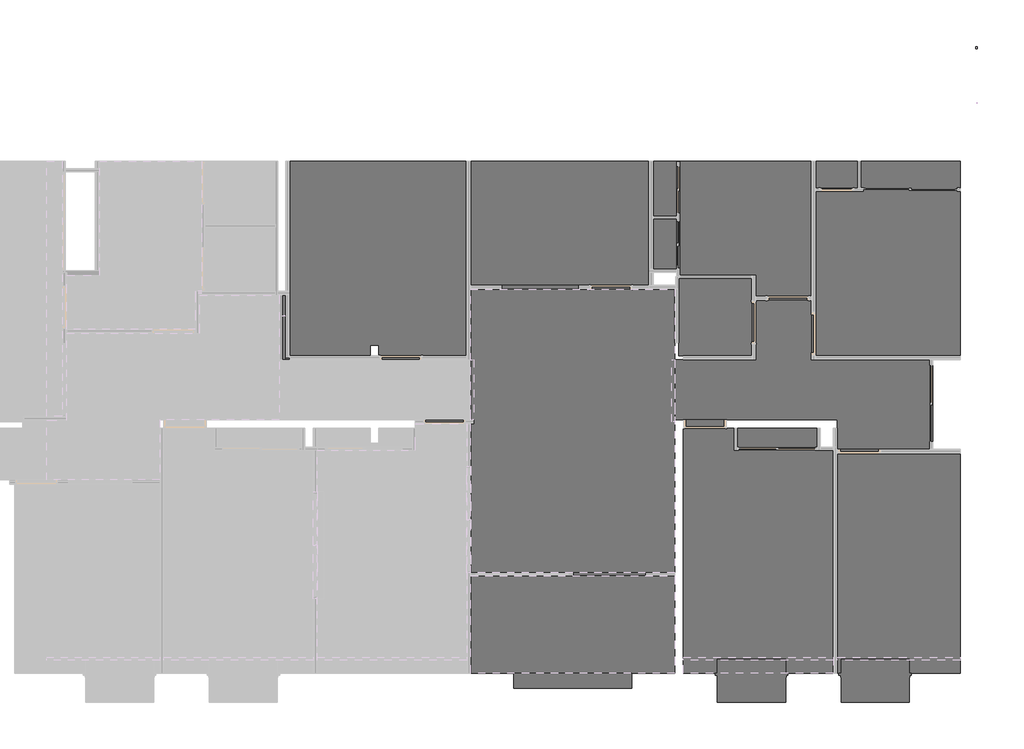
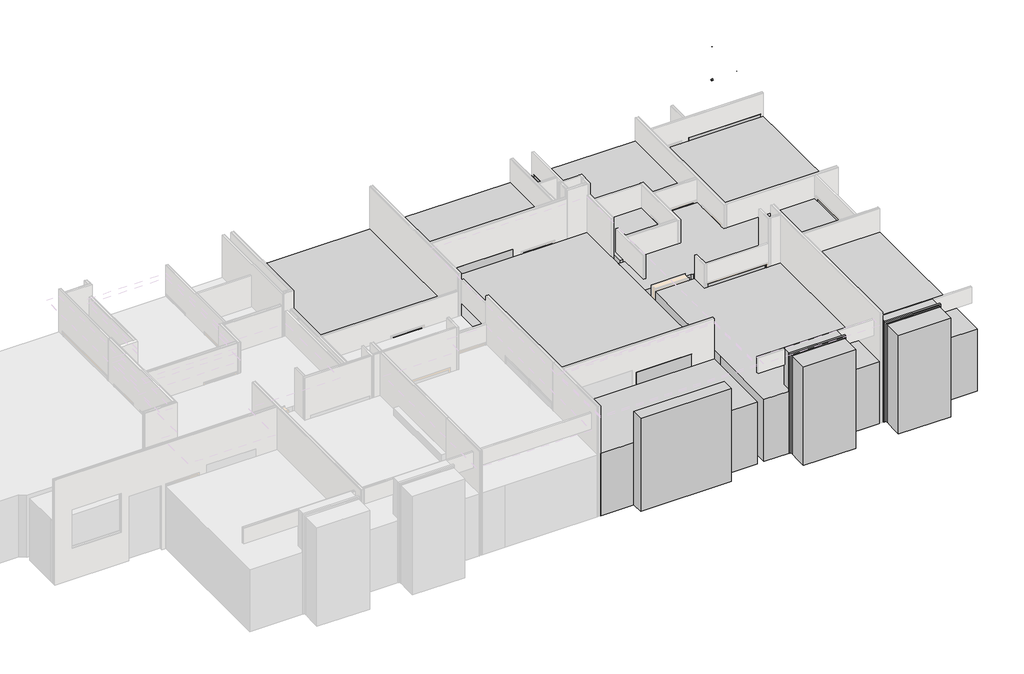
# One storey, part 6 of 6: 45 proxies.
"""IFC4 building model written with IfcOpenShell, lengths in millimetres."""

from ifc_helpers import new_model, si_unit, point, frame, frame_2d, origin, origin_with_axes, place, context, project, spatial, polyline, circle_curve, trimmed, segment, composite_curve, outline, extrude, faceted_brep, transform, mapped, element, save
from ifc_brep_helpers import plane_surface, revolved_surface, advanced_brep
from components import generic_models_f095d0f3

model = new_model("IFC4")

# Units and contexts
model_context = context("Model", 3, world=origin())
ifc_project = project(units=[si_unit("LENGTHUNIT", "METRE", prefix="MILLI")], contexts=[model_context])

# Site, building, storey
site = spatial("IfcSite", under=ifc_project)
building = spatial("IfcBuilding", under=site)
storey = spatial("IfcBuildingStorey", under=building, Name="0 Mairie RDC 0.00", Elevation=0.0)

# Proxies
placement = place(None, origin())
element("IfcBuildingElementProxy", 1, Name="Pièces - BUREAU 4", ObjectType="Pièces - BUREAU 4", at=placement, inside=storey, context=model_context, shape_type="SweptSolid", body=[
    extrude(outline(polyline([(1777.6156007, -8831.1038426), (1777.6156007, -13978.5662223), (-1106.3922233, -13978.5662223), (-1106.3922233, -8831.1038426), (1777.6156007, -8831.1038426)])), origin_with_axes(), (0.0, 0.0, 1.0), 2000.0),
])
element("IfcBuildingElementProxy", 2, Name="Pièces - WC PERSONNEL 5", ObjectType="Pièces - WC PERSONNEL 5", at=placement, inside=storey, context=model_context, shape_type="SweptSolid", body=[
    extrude(outline(polyline([(-4827.496702, -4722.7868397), (-3118.9176162, -4722.7868397), (-3118.9176162, -6533.7824715), (-4827.496702, -6533.7824715), (-4827.496702, -4722.7868397)])), origin_with_axes(), (0.0, 0.0, 1.0), 2000.0),
])
element("IfcBuildingElementProxy", 3, Name="Pièces - TECHNIQUE URBANISME 6", ObjectType="Pièces - TECHNIQUE URBANISME 6", at=placement, inside=storey, context=model_context, shape_type="SweptSolid", body=[
    extrude(outline(polyline([(-1206.3922233, -13978.5662223), (-3920.1625689, -13978.5662223), (-4727.496702, -13978.5662223), (-4727.496702, -11663.5833837), (-4727.496702, -8238.2685444), (-3526.0406291, -8238.2685444), (-3526.0406291, -8751.7570094), (-1541.0769125, -8751.7570094), (-1206.3922233, -8751.7570094), (-1206.3922233, -8781.1038426), (-1206.3922233, -13978.5662223)])), origin_with_axes(), (0.0, 0.0, 1.0), 2000.0),
])
element("IfcBuildingElementProxy", 4, Name="Pièces - Rgt TU 7", ObjectType="Pièces - Rgt TU 7", at=placement, inside=storey, context=model_context, shape_type="SweptSolid", body=[
    extrude(outline(polyline([(-3456.0406291, -8238.2685444), (-1576.0769125, -8238.2685444), (-1576.0769125, -8681.7570094), (-3456.0406291, -8681.7570094), (-3456.0406291, -8238.2685444)])), origin_with_axes(), (0.0, 0.0, 1.0), 2000.0),
])
element("IfcBuildingElementProxy", 5, Name="Generic Models", at=placement, inside=storey, context=model_context, shape_type="SweptSolid", body=[
    extrude(outline(polyline([(-1617.7552543, -5187.6533676), (-1617.7552543, -1972.7637486), (-634.0175894, -1972.7637486), (-634.0175894, -2637.7637486), (-564.0175894, -2637.7637486), (-564.0175894, -1972.7637486), (1777.6156007, -1972.7637486), (1777.6156007, -6533.7824715), (1092.9012584, -6533.7824715), (-1617.7552543, -6533.7824715), (-1617.7552543, -5187.6533676)])), origin_with_axes(), (0.0, 0.0, 1.0), 2000.0),
])
element("IfcBuildingElementProxy", 6, Name="Generic Models", at=placement, inside=storey, context=model_context, shape_type="AdvancedBrep", body=[
    advanced_brep(
    [(1169.4151282, -2359.887582, 62.1509425), (1144.0151282, -2359.887582, 62.1509425), (1156.7151282, -2359.887582, 62.1509425), (1156.7151282, -2359.887582, 24.0509425)],
    [
        (0, 1, circle_curve(frame((1156.7151282, -2359.887582, 62.1509425), z_axis=(0.0, 0.0, 1.0), x_axis=(-1.0, 0.0, 0.0)), 12.7)),
        (1, 2),
        (2, 0),
        (1, 0, circle_curve(frame((1156.7151282, -2359.887582, 62.1509425), z_axis=(0.0, 0.0, 1.0), x_axis=(-1.0, 0.0, 0.0)), 12.7)),
        (3, 1),
        (0, 3),
    ],
    [
        plane_surface(frame((1156.7151282, -2359.887582, 62.1509425), z_axis=(0.0, 0.0, 1.0), x_axis=(-1.0, 0.0, 0.0))),
        revolved_surface(polyline([(1144.0151282, -2359.887582, 62.1509425), (1156.7151282, -2359.887582, 24.0509425)]), (1156.7151282, -2359.887582, 62.1509425), (0.0, 0.0, -1.0)),
    ],
    [
        (0, [[1, 2, 3]]),
        (0, [[4, -3, -2]]),
        (1, [[5, -1, 6]]),
        (1, [[-6, -4, -5]]),
    ],
),
    advanced_brep(
    [(1144.0151282, -2359.887582, 62.1509425), (1169.4151282, -2359.887582, 62.1509425), (1156.7151282, -2359.887582, 62.1509425), (1156.7151282, -2359.887582, 100.2509425)],
    [
        (0, 1, circle_curve(frame((1156.7151282, -2359.887582, 62.1509425), z_axis=(0.0, 0.0, -1.0), x_axis=(1.0, 0.0, 0.0)), 12.7)),
        (1, 2),
        (2, 0),
        (1, 0, circle_curve(frame((1156.7151282, -2359.887582, 62.1509425), z_axis=(0.0, 0.0, -1.0), x_axis=(1.0, 0.0, 0.0)), 12.7)),
        (3, 1),
        (0, 3),
    ],
    [
        plane_surface(frame((1156.7151282, -2359.887582, 62.1509425), z_axis=(0.0, 0.0, -1.0), x_axis=(1.0, 0.0, 0.0))),
        revolved_surface(polyline([(1169.4151282, -2359.887582, 62.1509425), (1156.7151282, -2359.887582, 100.2509425)]), (1156.7151282, -2359.887582, 62.1509425), (0.0, 0.0, 1.0)),
    ],
    [
        (0, [[1, 2, 3]]),
        (0, [[4, -3, -2]]),
        (1, [[5, -1, 6]]),
        (1, [[-6, -4, -5]]),
    ],
),
])
element("IfcBuildingElementProxy", 7, Name="Generic Models", at=placement, inside=storey, context=model_context, shape_type="SweptSolid", body=[
    extrude(outline(polyline([(-1617.7552543, -5187.6533676), (-1617.7552543, -1972.7637486), (-634.0175894, -1972.7637486), (-634.0175894, -2637.7637486), (-564.0175894, -2637.7637486), (-564.0175894, -1972.7637486), (1777.6156007, -1972.7637486), (1777.6156007, -6533.7824715), (1092.9012584, -6533.7824715), (-1617.7552543, -6533.7824715), (-1617.7552543, -5187.6533676)])), origin_with_axes(), (0.0, 0.0, 1.0), 2000.0),
])
element("IfcBuildingElementProxy", 8, Name="Generic Models", at=placement, inside=storey, context=model_context, shape_type="SweptSolid", body=[
    extrude(outline(polyline([(-1617.7552543, -5187.6533676), (-1617.7552543, -1972.7637486), (-634.0175894, -1972.7637486), (-634.0175894, -2637.7637486), (-564.0175894, -2637.7637486), (-564.0175894, -1972.7637486), (1777.6156007, -1972.7637486), (1777.6156007, -6533.7824715), (1092.9012584, -6533.7824715), (-1617.7552543, -6533.7824715), (-1617.7552543, -5187.6533676)])), origin_with_axes(), (0.0, 0.0, 1.0), 2000.0),
])
element("IfcBuildingElementProxy", 9, Name="Pièces - HALL D'ACCUEIL 16", ObjectType="Pièces - HALL D'ACCUEIL 16", at=placement, inside=storey, context=model_context, shape_type="SweptSolid", body=[
    extrude(outline(polyline([(-9708.4471465, -4978.2154166), (-5529.0919733, -4978.2154166), (-5527.496701, -4978.2154166), (-5477.496701, -4978.2154166), (-4927.496702, -4978.2154166), (-4927.496702, -6233.7824715), (-4927.496702, -6633.7824715), (-4927.496702, -7985.2589444), (-4927.496702, -8138.2685444), (-4927.496702, -11628.5833837), (-9754.6455383, -11628.5833837), (-9754.6455383, -9128.5833837), (-9704.6455383, -9128.5833837), (-9704.6455383, -8082.7867091), (-9708.4471465, -8082.7867091), (-9708.4471465, -6735.5436392), (-9708.4471465, -6532.5340392), (-9708.4471465, -4978.2154166)])), origin_with_axes(), (0.0, 0.0, 1.0), 2000.0),
])
element("IfcBuildingElementProxy", 10, Name="Pièces - ENTRETIEN 17", ObjectType="Pièces - ENTRETIEN 17", at=placement, inside=storey, context=model_context, shape_type="SweptSolid", body=[
    extrude(outline(polyline([(-5427.496701, -3327.7490792), (-4842.4967035, -3327.7490792), (-4842.4967035, -3257.7490792), (-5427.496701, -3257.7490792), (-5427.496701, -1972.7637486), (-1717.7552543, -1972.7637486), (-1717.7552543, -5137.6533676), (-3018.9176162, -5137.6533676), (-3018.9176162, -4652.7868397), (-4842.4967035, -4652.7868397), (-4842.4967035, -4510.805772), (-5015.506302, -4510.805772), (-5427.496701, -4510.805772), (-5427.496701, -3327.7490792)])), origin_with_axes(), (0.0, 0.0, 1.0), 2000.0),
])
element("IfcBuildingElementProxy", 11, Name="Pièces - SAS 18", ObjectType="Pièces - SAS 18", at=placement, inside=storey, context=model_context, shape_type="SweptSolid", body=[
    extrude(outline(polyline([(-9704.6455383, -11698.5833837), (-4927.496702, -11698.5833837), (-4927.496702, -13978.5662223), (-9704.6455383, -13978.5662223), (-9704.6455383, -11698.5833837)])), origin_with_axes(), (0.0, 0.0, 1.0), 2000.0),
])
element("IfcBuildingElementProxy", 12, Name="Pièces - REPROGRAPHIE 25", ObjectType="Pièces - REPROGRAPHIE 25", at=placement, inside=storey, context=model_context, shape_type="SweptSolid", body=[
    extrude(outline(polyline([(-9708.4471465, -1972.7637486), (-5527.496701, -1972.7637486), (-5527.496701, -4878.2154166), (-9708.4471465, -4878.2154166), (-9708.4471465, -1972.7637486)])), origin_with_axes(), (0.0, 0.0, 1.0), 2000.0),
])
element("IfcBuildingElementProxy", 13, Name="Pièces - DEGAGEMENT 2 27", ObjectType="Pièces - DEGAGEMENT 2 27", at=placement, inside=storey, context=model_context, shape_type="SweptSolid", body=[
    extrude(outline(polyline([(-1717.7552543, -6633.7824715), (1057.9012584, -6633.7824715), (1057.9012584, -8731.1038426), (-1106.3922233, -8731.1038426), (-1106.3922233, -8239.8638166), (-1106.3922233, -8038.2685444), (-1207.9874955, -8038.2685444), (-1504.4816403, -8038.2685444), (-1577.6721848, -8038.2685444), (-3454.4453569, -8038.2685444), (-3527.6359014, -8038.2685444), (-4927.496702, -8038.2685444), (-4927.496702, -6633.7824715), (-4727.496702, -6633.7824715), (-3018.9176162, -6633.7824715), (-3018.9176162, -5237.6533676), (-1717.7552543, -5237.6533676), (-1717.7552543, -6633.7824715)])), origin_with_axes(), (0.0, 0.0, 1.0), 2000.0),
])
element("IfcBuildingElementProxy", 14, Name="Pièces - ARCHIVES 29", ObjectType="Pièces - ARCHIVES 29", at=placement, inside=storey, context=model_context, shape_type="SweptSolid", body=[
    extrude(outline(polyline([(-11858.5461708, -6292.5340392), (-12058.5461708, -6292.5340392), (-12058.5461708, -6532.5340392), (-13946.7760862, -6532.5340392), (-13946.7760862, -1972.7637486), (-9808.4471465, -1972.7637486), (-9808.4471465, -6532.5340392), (-11858.5461708, -6532.5340392), (-11858.5461708, -6292.5340392)])), origin_with_axes(), (0.0, 0.0, 1.0), 2000.0),
])
element("IfcBuildingElementProxy", 15, Name="Generic Models", at=placement, inside=storey, context=model_context, shape_type="SweptSolid", body=[
    extrude(outline(polyline([(-4877.4967035, -4477.5549021), (-4877.4967035, -3377.5549021), (-4807.4967035, -3377.5549021), (-4807.4967035, -4477.5549021), (-4877.4967035, -4477.5549021)])), origin_with_axes(), (0.0, 0.0, 1.0), 2100.0),
])
element("IfcBuildingElementProxy", 16, Name="Generic Models", at=placement, inside=storey, context=model_context, shape_type="SweptSolid", body=[
    extrude(outline(polyline([(-4807.4967035, -2089.805772), (-4807.4967035, -3189.805772), (-4877.4967035, -3189.805772), (-4877.4967035, -2089.805772), (-4807.4967035, -2089.805772)])), origin_with_axes(), (0.0, 0.0, 1.0), 2100.0),
])
element("IfcBuildingElementProxy", 17, Name="Generic Models", at=placement, inside=storey, context=model_context, shape_type="SweptSolid", body=[
    extrude(outline(polyline([(-1617.7552543, -5518.7824715), (-1617.7552543, -6518.7824715), (-1717.7552543, -6518.7824715), (-1717.7552543, -5518.7824715), (-1617.7552543, -5518.7824715)])), origin_with_axes(), (0.0, 0.0, 1.0), 2075.0),
])
element("IfcBuildingElementProxy", 18, Name="Generic Models", at=placement, inside=storey, context=model_context, shape_type="SweptSolid", body=[
    extrude(outline(polyline([(-3018.9176162, -5252.6533676), (-3018.9176162, -6252.6533676), (-3118.9176162, -6252.6533676), (-3118.9176162, -5252.6533676), (-3018.9176162, -5252.6533676)])), origin_with_axes(), (0.0, 0.0, 1.0), 2075.0),
])
element("IfcBuildingElementProxy", 19, Name="Generic Models", at=placement, inside=storey, context=model_context, shape_type="SweptSolid", body=[
    extrude(outline(polyline([(-2767.7552543, -5137.6533676), (-1767.7552543, -5137.6533676), (-1767.7552543, -5237.6533676), (-2767.7552543, -5237.6533676), (-2767.7552543, -5137.6533676)])), origin_with_axes(), (0.0, 0.0, 1.0), 2075.0),
])
element("IfcBuildingElementProxy", 20, Name="Generic Models", at=placement, inside=storey, context=model_context, shape_type="SweptSolid", body=[
    extrude(outline(polyline([(-11848.5461708, -6532.5340392), (-10848.5461708, -6532.5340392), (-10848.5461708, -6632.5340392), (-11848.5461708, -6632.5340392), (-11848.5461708, -6532.5340392)])), origin_with_axes(), (0.0, 0.0, 1.0), 2075.0),
])
element("IfcBuildingElementProxy", 21, Name="Generic Models", at=placement, inside=storey, context=model_context, shape_type="SweptSolid", body=[
    extrude(outline(polyline([(-91.3922233, -8831.1038426), (-1091.3922233, -8831.1038426), (-1091.3922233, -8731.1038426), (-91.3922233, -8731.1038426), (-91.3922233, -8831.1038426)])), origin_with_axes(), (0.0, 0.0, 1.0), 2075.0),
])
element("IfcBuildingElementProxy", 22, Name="Generic Models", at=placement, inside=storey, context=model_context, shape_type="SweptSolid", body=[
    extrude(outline(polyline([(-1091.3922233, -8831.1038426), (-1091.3922233, -8731.1038426), (-91.3922233, -8731.1038426), (-91.3922233, -8831.1038426), (-1091.3922233, -8831.1038426)])), origin_with_axes(), (0.0, 0.0, 1.0), 2075.0),
])
element("IfcBuildingElementProxy", 23, Name="Generic Models", at=placement, inside=storey, context=model_context, shape_type="SweptSolid", body=[
    extrude(outline(polyline([(-1621.0406291, -8751.7570094), (-3421.0406291, -8751.7570094), (-3421.0406291, -8681.7570094), (-1621.0406291, -8681.7570094), (-1621.0406291, -8751.7570094)])), origin_with_axes(), (0.0, 0.0, 1.0), 2100.0),
])
element("IfcBuildingElementProxy", 24, Name="Generic Models", at=placement, inside=storey, context=model_context, shape_type="SweptSolid", body=[
    extrude(outline(polyline([(-6917.4166831, -4878.2154166), (-5917.4166831, -4878.2154166), (-5917.4166831, -4978.2154166), (-6917.4166831, -4978.2154166), (-6917.4166831, -4878.2154166)])), origin_with_axes(), (0.0, 0.0, 1.0), 2075.0),
])
element("IfcBuildingElementProxy", 25, Name="Generic Models", at=placement, inside=storey, context=model_context, shape_type="SweptSolid", body=[
    extrude(outline(polyline([(-8974.496701, -4878.2154166), (-7174.496701, -4878.2154166), (-7174.496701, -4978.2154166), (-8974.496701, -4978.2154166), (-8974.496701, -4878.2154166)])), frame((0.0, 0.0, 1000.0), z_axis=(0.0, 0.0, 1.0), x_axis=(1.0, 0.0, 0.0)), (0.0, 0.0, 1.0), 1250.0),
])
element("IfcBuildingElementProxy", 26, Name="Generic Models", at=placement, inside=storey, context=model_context, shape_type="SweptSolid", body=[
    extrude(outline(polyline([(-725.8864219, -2672.7637486), (-1525.8864219, -2672.7637486), (-1525.8864219, -2602.7637486), (-725.8864219, -2602.7637486), (-725.8864219, -2672.7637486)])), origin_with_axes(), (0.0, 0.0, 1.0), 2075.0),
])
element("IfcBuildingElementProxy", 27, Name="Generic Models", at=placement, inside=storey, context=model_context, shape_type="SweptSolid", body=[
    extrude(outline(polyline([(-499.0175894, -2602.7637486), (1700.9824106, -2602.7637486), (1700.9824106, -2672.7637486), (-499.0175894, -2672.7637486), (-499.0175894, -2602.7637486)])), origin_with_axes(), (0.0, 0.0, 1.0), 2100.0),
])
element("IfcBuildingElementProxy", 28, Name="Generic Models", at=placement, inside=storey, context=model_context, shape_type="SweptSolid", body=[
    extrude(outline(polyline([(-5605.3883155, -11698.5833837), (-7305.3883155, -11698.5833837), (-7305.3883155, -11628.5833837), (-5605.3883155, -11628.5833837), (-5605.3883155, -11698.5833837)])), origin_with_axes(), (0.0, 0.0, 1.0), 2400.0),
])
element("IfcBuildingElementProxy", 29, Name="Generic Models", at=placement, inside=storey, context=model_context, shape_type="SweptSolid", body=[
    extrude(outline(polyline([(-9819.6455383, -8132.7867091), (-10819.6455383, -8132.7867091), (-10819.6455383, -8032.7867091), (-9819.6455383, -8032.7867091), (-9819.6455383, -8132.7867091)])), origin_with_axes(), (0.0, 0.0, 1.0), 2075.0),
])
element("IfcBuildingElementProxy", 30, Name="Generic Models", at=placement, inside=storey, context=model_context, shape_type="SweptSolid", body=[
    extrude(outline(polyline([(-3712.496702, -8238.2685444), (-4712.496702, -8238.2685444), (-4712.496702, -8038.2685444), (-3712.496702, -8038.2685444), (-3712.496702, -8238.2685444)])), origin_with_axes(), (0.0, 0.0, 1.0), 2075.0),
])
element("IfcBuildingElementProxy", 31, Name="Generic Models", at=placement, inside=storey, context=model_context, shape_type="SweptSolid", body=[
    extrude(outline(polyline([(1057.9012584, -8557.443157), (1057.9012584, -6757.443157), (1127.9012584, -6757.443157), (1127.9012584, -8557.443157), (1057.9012584, -8557.443157)])), origin_with_axes(), (0.0, 0.0, 1.0), 2100.0),
])
element("IfcBuildingElementProxy", 32, Name="Generic Models", at=placement, inside=storey, context=model_context, shape_type="SweptSolid", body=[
    extrude(outline(polyline([(-5934.6455383, -14338.5662223), (-8694.6455383, -14338.5662223), (-8694.6455383, -13978.5662223), (-5934.6455383, -13978.5662223), (-5934.6455383, -14338.5662223)])), origin_with_axes(), (0.0, 0.0, 1.0), 3000.0),
])
element("IfcBuildingElementProxy", 33, Name="Generic Models", at=placement, inside=storey, context=model_context, shape_type="Brep", body=[
    faceted_brep([(-2320.1625689, -14391.5689782, 0.0), (-2320.1625689, -14058.5662223, 35.0), (-2320.1625689, -14078.5662223, 35.0), (-2320.1625689, -14078.5662223, 3185.0), (-2320.1625689, -14658.5662223, 3185.0), (-2320.1625689, -14658.5662223, 0.0), (-3920.1625689, -13658.5662223, 3185.0), (-3920.1625689, -13658.5662223, 35.0), (-3920.1625689, -13978.5662223, 35.0), (-3920.1625689, -13978.5662223, 3185.0), (-2320.1625689, -13658.5662223, 35.0), (-2320.1625689, -13978.5662223, 35.0), (-2270.1625689, -13978.5662223, 35.0), (-2270.1625689, -14028.5662223, 35.0), (-2310.1625689, -14028.5662223, 35.0), (-2310.1625689, -14078.5662223, 35.0), (-3920.1625689, -14058.5662223, 35.0), (-3920.1625689, -14078.5662223, 35.0), (-3930.1625689, -14078.5662223, 35.0), (-3930.1625689, -14028.5662223, 35.0), (-3970.1625689, -14028.5662223, 35.0), (-3970.1625689, -13978.5662223, 35.0), (-2320.1625689, -13658.5662223, 3185.0), (-3920.1625689, -14658.5662223, 3185.0), (-3920.1625689, -14078.5662223, 3185.0), (-3920.1625689, -14658.5662223, 0.0), (-3920.1625689, -14391.5689782, 0.0), (-2270.1625689, -13978.5662223, 3235.0), (-2270.1625689, -14028.5662223, 3235.0), (-3970.1625689, -14028.5662223, 3235.0), (-3930.1625689, -14028.5662223, 3195.0), (-2310.1625689, -14028.5662223, 3195.0), (-2310.1625689, -14078.5662223, 3195.0), (-3930.1625689, -14078.5662223, 3195.0), (-2320.1625689, -13978.5662223, 3185.0), (-3970.1625689, -13978.5662223, 3235.0)], [[[0, 1, 2, 3, 4, 5]], [[6, 7, 8, 9]], [[7, 10, 11, 12, 13, 14, 15, 2, 1, 16, 17, 18, 19, 20, 21, 8]], [[22, 10, 7, 6]], [[23, 4, 3, 24]], [[5, 4, 23, 25]], [[0, 5, 25, 26]], [[1, 0, 26, 16]], [[13, 12, 27, 28]], [[14, 13, 28, 29, 20, 19, 30, 31]], [[15, 14, 31, 32]], [[2, 15, 32, 33, 18, 17, 24, 3]], [[12, 11, 34, 9, 8, 21, 35, 27]], [[28, 27, 35, 29]], [[31, 30, 33, 32]], [[20, 29, 35, 21]], [[30, 19, 18, 33]], [[22, 6, 9, 34]], [[25, 23, 24, 17, 16, 26]], [[10, 22, 34, 11]]]),
])
element("IfcBuildingElementProxy", 34, Name="Generic Models", at=placement, inside=storey, context=model_context, shape_type="Brep", body=[
    faceted_brep([(577.6156007, -14391.5689782, 0.0), (577.6156007, -14058.5662223, 35.0), (577.6156007, -14078.5662223, 35.0), (577.6156007, -14078.5662223, 3185.0), (577.6156007, -14658.5662223, 3185.0), (577.6156007, -14658.5662223, 0.0), (-1022.3843993, -13658.5662223, 3185.0), (-1022.3843993, -13658.5662223, 35.0), (-1022.3843993, -13978.5662223, 35.0), (-1022.3843993, -13978.5662223, 3185.0), (577.6156007, -13658.5662223, 35.0), (577.6156007, -13978.5662223, 35.0), (627.6156007, -13978.5662223, 35.0), (627.6156007, -14028.5662223, 35.0), (587.6156007, -14028.5662223, 35.0), (587.6156007, -14078.5662223, 35.0), (-1022.3843993, -14058.5662223, 35.0), (-1022.3843993, -14078.5662223, 35.0), (-1032.3843993, -14078.5662223, 35.0), (-1032.3843993, -14028.5662223, 35.0), (-1072.3843993, -14028.5662223, 35.0), (-1072.3843993, -13978.5662223, 35.0), (577.6156007, -13658.5662223, 3185.0), (-1022.3843993, -14658.5662223, 3185.0), (-1022.3843993, -14078.5662223, 3185.0), (-1022.3843993, -14658.5662223, 0.0), (-1022.3843993, -14391.5689782, 0.0), (627.6156007, -13978.5662223, 3235.0), (627.6156007, -14028.5662223, 3235.0), (-1072.3843993, -14028.5662223, 3235.0), (-1032.3843993, -14028.5662223, 3195.0), (587.6156007, -14028.5662223, 3195.0), (587.6156007, -14078.5662223, 3195.0), (-1032.3843993, -14078.5662223, 3195.0), (577.6156007, -13978.5662223, 3185.0), (-1072.3843993, -13978.5662223, 3235.0)], [[[0, 1, 2, 3, 4, 5]], [[6, 7, 8, 9]], [[7, 10, 11, 12, 13, 14, 15, 2, 1, 16, 17, 18, 19, 20, 21, 8]], [[22, 10, 7, 6]], [[23, 4, 3, 24]], [[5, 4, 23, 25]], [[0, 5, 25, 26]], [[1, 0, 26, 16]], [[13, 12, 27, 28]], [[14, 13, 28, 29, 20, 19, 30, 31]], [[15, 14, 31, 32]], [[2, 15, 32, 33, 18, 17, 24, 3]], [[12, 11, 34, 9, 8, 21, 35, 27]], [[28, 27, 35, 29]], [[31, 30, 33, 32]], [[20, 29, 35, 21]], [[30, 19, 18, 33]], [[22, 6, 9, 34]], [[25, 23, 24, 17, 16, 26]], [[10, 22, 34, 11]]]),
])
element("IfcBuildingElementProxy", 35, Name="Generic Models", at=placement, inside=storey, context=model_context, shape_type="Brep", body=[
    faceted_brep([(-2320.1625689, -14391.5689782, 0.0), (-2320.1625689, -14058.5662223, 35.0), (-2320.1625689, -14078.5662223, 35.0), (-2320.1625689, -14078.5662223, 3185.0), (-2320.1625689, -14658.5662223, 3185.0), (-2320.1625689, -14658.5662223, 0.0), (-3920.1625689, -13658.5662223, 3185.0), (-3920.1625689, -13658.5662223, 35.0), (-3920.1625689, -13978.5662223, 35.0), (-3920.1625689, -13978.5662223, 3185.0), (-2320.1625689, -13658.5662223, 35.0), (-2320.1625689, -13978.5662223, 35.0), (-2270.1625689, -13978.5662223, 35.0), (-2270.1625689, -14028.5662223, 35.0), (-2310.1625689, -14028.5662223, 35.0), (-2310.1625689, -14078.5662223, 35.0), (-3920.1625689, -14058.5662223, 35.0), (-3920.1625689, -14078.5662223, 35.0), (-3930.1625689, -14078.5662223, 35.0), (-3930.1625689, -14028.5662223, 35.0), (-3970.1625689, -14028.5662223, 35.0), (-3970.1625689, -13978.5662223, 35.0), (-2320.1625689, -13658.5662223, 3185.0), (-3920.1625689, -14658.5662223, 3185.0), (-3920.1625689, -14078.5662223, 3185.0), (-3920.1625689, -14658.5662223, 0.0), (-3920.1625689, -14391.5689782, 0.0), (-2270.1625689, -13978.5662223, 3235.0), (-2270.1625689, -14028.5662223, 3235.0), (-3970.1625689, -14028.5662223, 3235.0), (-3930.1625689, -14028.5662223, 3195.0), (-2310.1625689, -14028.5662223, 3195.0), (-2310.1625689, -14078.5662223, 3195.0), (-3930.1625689, -14078.5662223, 3195.0), (-2320.1625689, -13978.5662223, 3185.0), (-3970.1625689, -13978.5662223, 3235.0)], [[[0, 1, 2, 3, 4, 5]], [[6, 7, 8, 9]], [[7, 10, 11, 12, 13, 14, 15, 2, 1, 16, 17, 18, 19, 20, 21, 8]], [[22, 10, 7, 6]], [[23, 4, 3, 24]], [[5, 4, 23, 25]], [[0, 5, 25, 26]], [[1, 0, 26, 16]], [[13, 12, 27, 28]], [[14, 13, 28, 29, 20, 19, 30, 31]], [[15, 14, 31, 32]], [[2, 15, 32, 33, 18, 17, 24, 3]], [[12, 11, 34, 9, 8, 21, 35, 27]], [[28, 27, 35, 29]], [[31, 30, 33, 32]], [[20, 29, 35, 21]], [[30, 19, 18, 33]], [[22, 6, 9, 34]], [[25, 23, 24, 17, 16, 26]], [[10, 22, 34, 11]]]),
])
element("IfcBuildingElementProxy", 36, Name="Generic Models", at=placement, inside=storey, context=model_context, shape_type="Brep", body=[
    faceted_brep([(577.6156007, -14391.5689782, 0.0), (577.6156007, -14058.5662223, 35.0), (577.6156007, -14078.5662223, 35.0), (577.6156007, -14078.5662223, 3185.0), (577.6156007, -14658.5662223, 3185.0), (577.6156007, -14658.5662223, 0.0), (-1022.3843993, -13658.5662223, 3185.0), (-1022.3843993, -13658.5662223, 35.0), (-1022.3843993, -13978.5662223, 35.0), (-1022.3843993, -13978.5662223, 3185.0), (577.6156007, -13658.5662223, 35.0), (577.6156007, -13978.5662223, 35.0), (627.6156007, -13978.5662223, 35.0), (627.6156007, -14028.5662223, 35.0), (587.6156007, -14028.5662223, 35.0), (587.6156007, -14078.5662223, 35.0), (-1022.3843993, -14058.5662223, 35.0), (-1022.3843993, -14078.5662223, 35.0), (-1032.3843993, -14078.5662223, 35.0), (-1032.3843993, -14028.5662223, 35.0), (-1072.3843993, -14028.5662223, 35.0), (-1072.3843993, -13978.5662223, 35.0), (577.6156007, -13658.5662223, 3185.0), (-1022.3843993, -14658.5662223, 3185.0), (-1022.3843993, -14078.5662223, 3185.0), (-1022.3843993, -14658.5662223, 0.0), (-1022.3843993, -14391.5689782, 0.0), (627.6156007, -13978.5662223, 3235.0), (627.6156007, -14028.5662223, 3235.0), (-1072.3843993, -14028.5662223, 3235.0), (-1032.3843993, -14028.5662223, 3195.0), (587.6156007, -14028.5662223, 3195.0), (587.6156007, -14078.5662223, 3195.0), (-1032.3843993, -14078.5662223, 3195.0), (577.6156007, -13978.5662223, 3185.0), (-1072.3843993, -13978.5662223, 3235.0)], [[[0, 1, 2, 3, 4, 5]], [[6, 7, 8, 9]], [[7, 10, 11, 12, 13, 14, 15, 2, 1, 16, 17, 18, 19, 20, 21, 8]], [[22, 10, 7, 6]], [[23, 4, 3, 24]], [[5, 4, 23, 25]], [[0, 5, 25, 26]], [[1, 0, 26, 16]], [[13, 12, 27, 28]], [[14, 13, 28, 29, 20, 19, 30, 31]], [[15, 14, 31, 32]], [[2, 15, 32, 33, 18, 17, 24, 3]], [[12, 11, 34, 9, 8, 21, 35, 27]], [[28, 27, 35, 29]], [[31, 30, 33, 32]], [[20, 29, 35, 21]], [[30, 19, 18, 33]], [[22, 6, 9, 34]], [[25, 23, 24, 17, 16, 26]], [[10, 22, 34, 11]]]),
])
element("IfcBuildingElementProxy", 37, Name="Generic Models", at=placement, inside=storey, context=model_context, shape_type="SweptSolid", body=[
    extrude(outline(polyline([(-16015.9503686, -2987.7637486), (-16015.9503686, -1987.7637486), (-15945.9503686, -1987.7637486), (-15945.9503686, -2987.7637486), (-16015.9503686, -2987.7637486)])), origin_with_axes(), (0.0, 0.0, 1.0), 2075.0),
])
element("IfcBuildingElementProxy", 38, Name="Generic Models", at=placement, inside=storey, context=model_context, shape_type="SweptSolid", body=[
    extrude(outline(polyline([(-16015.9503686, -5004.9219201), (-16015.9503686, -4004.9219201), (-15945.9503686, -4004.9219201), (-15945.9503686, -5004.9219201), (-16015.9503686, -5004.9219201)])), origin_with_axes(), (0.0, 0.0, 1.0), 2075.0),
])
element("IfcBuildingElementProxy", 39, Name="Generic Models", at=placement, inside=storey, context=model_context, shape_type="SweptSolid", body=[
    extrude(outline(polyline([(-14132.6238573, -6633.7824715), (-14132.6238573, -8032.7867091), (-14202.6238573, -8032.7867091), (-14202.6238573, -6633.7824715), (-14132.6238573, -6633.7824715)])), origin_with_axes(), (0.0, 0.0, 1.0), 1320.0),
])
element("IfcBuildingElementProxy", 40, Name="Generic Models", at=placement, inside=storey, context=model_context, shape_type="Brep", body=[
    faceted_brep([(-14129.6238573, -6583.7637435, 0.0), (-14129.6238573, -5123.7637435, 0.0), (-14049.6238573, -5123.7637435, 0.0), (-14049.6238573, -6583.7637435, 0.0), (-14054.6238573, -6583.7637435, 0.0), (-14054.6238573, -7980.7637435, 0.0), (-14049.6238573, -7980.7637435, 0.0), (-14049.6238573, -8003.7637435, 0.0), (-14129.6238573, -8003.7637435, 0.0), (-14129.6238573, -7980.7637435, 0.0), (-14124.6238573, -7980.7637435, 0.0), (-14124.6238573, -6583.7637435, 0.0), (-14129.6238573, -6583.7637435, 2051.0), (-14129.6238573, -7980.7637435, 2051.0), (-14129.6238573, -8003.7637435, 2120.0), (-14129.6238573, -5123.7637435, 2120.0), (-14124.6238573, -6583.7637435, 2051.0), (-14124.6238573, -7980.7637435, 2051.0), (-14049.6238573, -8003.7637435, 2120.0), (-14049.6238573, -7980.7637435, 2051.0), (-14049.6238573, -6583.7637435, 2051.0), (-14049.6238573, -5123.7637435, 2120.0), (-14054.6238573, -7980.7637435, 2051.0), (-14054.6238573, -6583.7637435, 2051.0)], [[[0, 1, 2, 3, 4, 5, 6, 7, 8, 9, 10, 11]], [[1, 0, 12, 13, 9, 8, 14, 15]], [[0, 11, 16, 12]], [[11, 10, 17, 16]], [[10, 9, 13, 17]], [[8, 7, 18, 14]], [[7, 6, 19, 20, 3, 2, 21, 18]], [[6, 5, 22, 19]], [[5, 4, 23, 22]], [[4, 3, 20, 23]], [[1, 15, 21, 2]], [[18, 21, 15, 14]], [[13, 12, 16, 17]], [[20, 19, 22, 23]]]),
])
element("IfcBuildingElementProxy", 41, Name="Generic Models", at=placement, inside=storey, context=model_context, shape_type="SweptSolid", body=[
    extrude(outline(composite_curve([segment(trimmed(circle_curve(frame_2d((691.5, 1000.0017016)), 25.0), [point((716.5, 1000.0017016))], [point((666.5, 1000.0017016))], False, "CARTESIAN"), True, "CONTINUOUS"), segment(trimmed(circle_curve(frame_2d((691.5, 1000.0017016)), 25.0), [point((666.5, 1000.0017016))], [point((716.5, 1000.0017016))], False, "CARTESIAN"), True, "CONTINUOUS")], self_intersect=False)), frame((2139.5, 0.0, 0.0), z_axis=(1.0, 0.0, 0.0), x_axis=(0.0, 1.0, 0.0)), (0.0, 0.0, 1.0), 38.0),
])
element("IfcBuildingElementProxy", 42, Name="Generic Models", at=placement, inside=storey, context=model_context, shape_type="SweptSolid", body=[
    extrude(outline(composite_curve([segment(trimmed(circle_curve(frame_2d((2158.5, 691.5)), 2.0), [point((2158.5, 693.5))], [point((2158.5, 689.5))], False, "CARTESIAN"), True, "CONTINUOUS"), segment(trimmed(circle_curve(frame_2d((2158.5, 691.5)), 2.0), [point((2158.5, 689.5))], [point((2158.5, 693.5))], False, "CARTESIAN"), True, "CONTINUOUS")], self_intersect=False)), frame((0.0, 0.0, 2062.0), z_axis=(0.0, 0.0, 1.0), x_axis=(1.0, 0.0, 0.0)), (0.0, 0.0, 1.0), 9.5146134),
])
element("IfcBuildingElementProxy", 43, Name="Generic Models", at=placement, inside=storey, context=model_context, shape_type="SweptSolid", body=[
    extrude(outline(composite_curve([segment(trimmed(circle_curve(frame_2d((2158.5, -608.5)), 2.0), [point((2158.5, -610.5))], [point((2158.5, -606.5))], False, "CARTESIAN"), True, "CONTINUOUS"), segment(trimmed(circle_curve(frame_2d((2158.5, -608.5)), 2.0), [point((2158.5, -606.5))], [point((2158.5, -610.5))], False, "CARTESIAN"), True, "CONTINUOUS")], self_intersect=False)), frame((0.0, 0.0, 2062.0), z_axis=(0.0, 0.0, 1.0), x_axis=(1.0, 0.0, 0.0)), (0.0, 0.0, 1.0), 9.5146134),
])
element("IfcBuildingElementProxy", 44, Name="Generic Models", at=placement, inside=storey, context=model_context, shape_type="SweptSolid", body=[
    extrude(outline(polyline([(-14046.7760862, -8032.7867091), (-14046.7760862, -6582.5340392), (-13946.7760862, -6582.5340392), (-13946.7760862, -8032.7867091), (-14046.7760862, -8032.7867091)])), origin_with_axes(), (0.0, 0.0, 1.0), 2120.0),
])
generic_models_shape = generic_models_f095d0f3(model_context)
element("IfcBuildingElementProxy", 45, Name="Installations électriques - HAFELE Appliances Refrigerator SIKB3550 - Built-in-Fridge_534.16.130", ObjectType="Installations électriques - HAFELE Appliances Refrigerator SIKB3550 - Built-in-Fridge_534.16.130", at=placement, inside=storey, context=model_context, shape_type="MappedRepresentation", body=[
    mapped(generic_models_shape, transform((1062.2447457, -2518.7637486, 62.1509425), x_axis=(1.0, 0.0, 0.0), y_axis=(0.0, 1.0, 0.0), z_axis=(0.0, 0.0, 1.0))),
])

save(model, "model.ifc")
